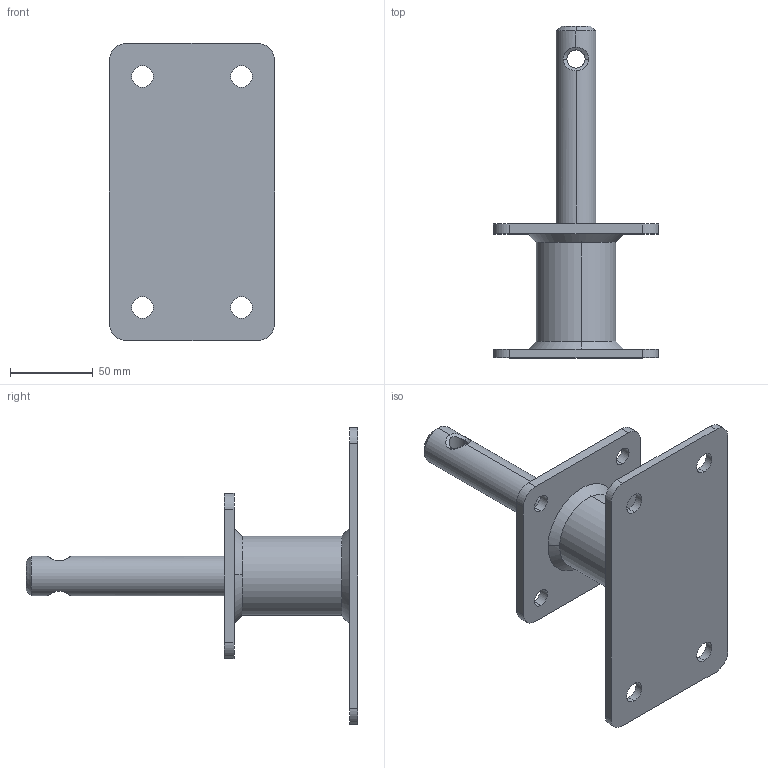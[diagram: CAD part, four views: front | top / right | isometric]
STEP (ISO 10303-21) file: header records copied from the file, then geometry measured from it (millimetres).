
FILE_DESCRIPTION (( 'STEP AP203' ), '1' );
FILE_NAME ('19823065.STEP', '2021-04-19T16:45:26', ( '' ), ( '' ), 'SwSTEP 2.0', 'SolidWorks 2013', '' );
FILE_SCHEMA (( 'CONFIG_CONTROL_DESIGN' ));
Length unit declared in the file: millimetre
Products named in the file (6): 180x100x5-4xd13-abgerundet; 19823065; 100x100x6-4xd11-1xd21; 24x120; Schweissnaht-d48mm; Standrohr-48,3x70x3,25
Assembly tree (6 placements, depth 2):
  19823065
    180x100x5-4xd13-abgerundet
    Schweissnaht-d48mm  x2
    Standrohr-48,3x70x3,25
    100x100x6-4xd11-1xd21
    24x120
Bounding box: 100 x 201 x 180 mm (x, y, z)
Volume: 232360.8 mm3; surface area: 97062 mm2
Topology: 6 solids, 6 shells, 64 faces, 160 edges, 104 vertices
Faces by surface type: cylinder 36, plane 18, bspline 8, cone 2
Entity records: 6350 total; most frequent: CARTESIAN_POINT 4228, DIRECTION 314, ORIENTED_EDGE 300, EDGE_CURVE 150, AXIS2_PLACEMENT_3D 126, VERTEX_POINT 98, EDGE_LOOP 78, CIRCLE 64
